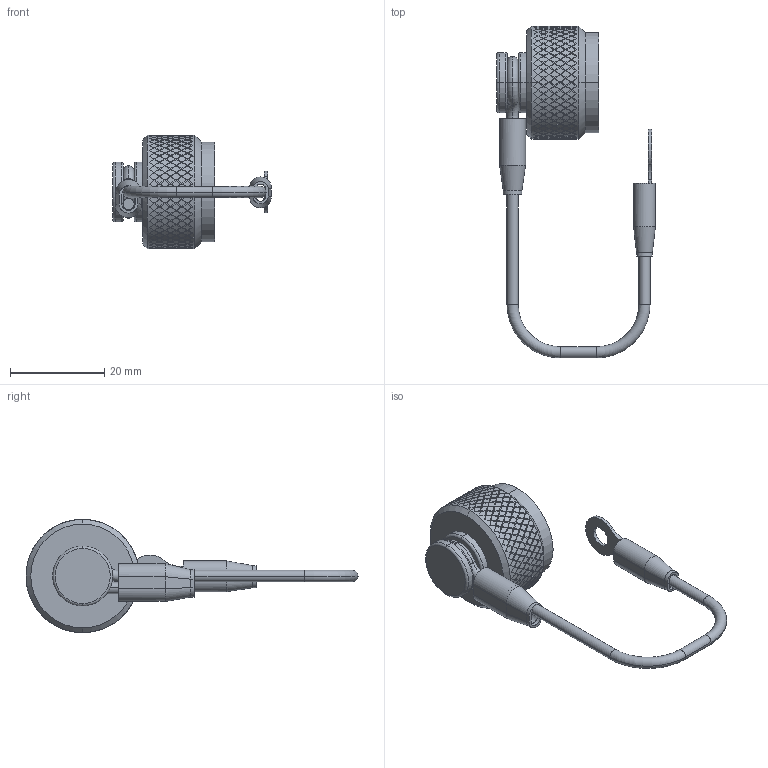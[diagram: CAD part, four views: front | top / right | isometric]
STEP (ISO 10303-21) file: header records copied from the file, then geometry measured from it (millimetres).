
FILE_DESCRIPTION (( 'STEP AP214' ), '1' );
FILE_NAME ('Q38DC-RFX-11-R1.STEP', '2026-04-22T19:06:54', ( '' ), ( '' ), 'SwSTEP 2.0', 'SolidWorks 2024', '' );
FILE_SCHEMA (( 'AUTOMOTIVE_DESIGN' ));
Length unit declared in the file: inch
Products named in the file (9): Q38-XX48-X_Q38-1148-X; HEAT SHRINK_HS-250X625_SW-348; SW-347; LN-06-07-13_Q38DC-RFX-11 (Assembled); Lanyard Assembly Q38_Q38DC-RFX-11; Q38-XX29-P_11R; Q38DC-RFX-11-R1; HEAT SHRINK_HS-125-625S; SW-348
Assembly tree (8 placements, depth 3):
  Q38DC-RFX-11-R1
    Q38-XX48-X_Q38-1148-X
    Lanyard Assembly Q38_Q38DC-RFX-11
      LN-06-07-13_Q38DC-RFX-11 (Assembled)
      SW-348
      HEAT SHRINK_HS-250X625_SW-348
      SW-347
      HEAT SHRINK_HS-125-625S
    Q38-XX29-P_11R
Bounding box: 33.64 x 70.34 x 24 mm (x, y, z)
Volume: 5339 mm3; surface area: 6646.2 mm2
Topology: 7 solids, 7 shells, 2032 faces, 5015 edges, 3319 vertices
Faces by surface type: plane 1541, cylinder 451, torus 20, bspline 14, cone 6
Entity records: 60753 total; most frequent: CARTESIAN_POINT 21169, ORIENTED_EDGE 10030, DIRECTION 6200, EDGE_CURVE 5015, VERTEX_POINT 3319, EDGE_LOOP 2364, AXIS2_PLACEMENT_3D 2278, FACE_OUTER_BOUND 2032
